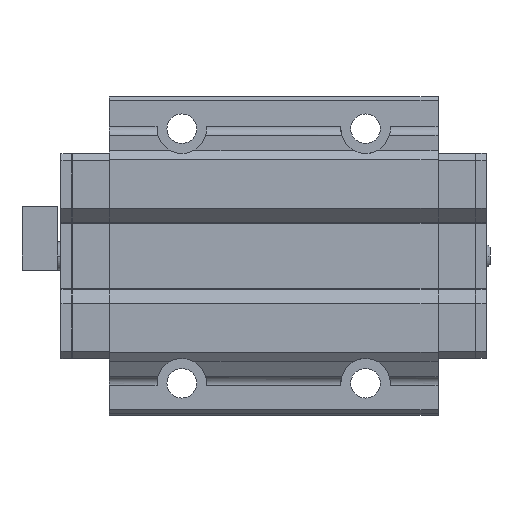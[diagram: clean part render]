
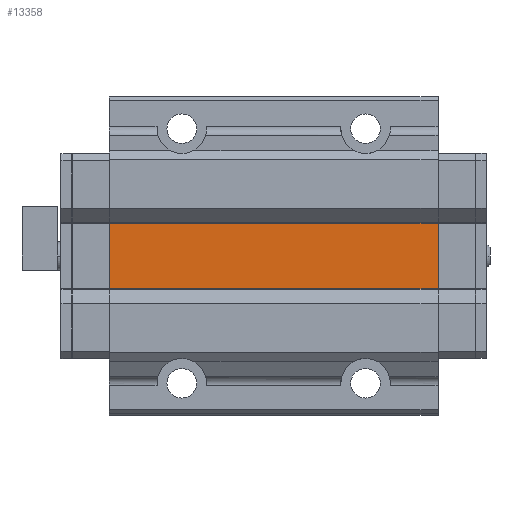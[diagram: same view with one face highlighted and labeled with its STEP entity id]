
A CAD part, front view. The second image highlights one B-rep face of the part: STEP entity #13358.
In plain terms, the highlighted planar face has unit normal (0, -1, 0).
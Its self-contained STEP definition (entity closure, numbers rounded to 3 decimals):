
#262 = ORIENTED_EDGE ( 'NONE', *, *, #9110, .T. ) ;
#825 = DIRECTION ( 'NONE',  ( 0., 0., 1. ) ) ;
#1136 = VERTEX_POINT ( 'NONE', #3184 ) ;
#1281 = VECTOR ( 'NONE', #6744, 1000. ) ;
#2129 = ORIENTED_EDGE ( 'NONE', *, *, #9428, .F. ) ;
#2952 = VERTEX_POINT ( 'NONE', #9342 ) ;
#3184 = CARTESIAN_POINT ( 'NONE',  ( -46.5, 0., 9.256 ) ) ;
#3734 = EDGE_CURVE ( 'NONE', #4790, #2952, #4472, .T. ) ;
#3869 = EDGE_LOOP ( 'NONE', ( #13304, #262, #2129, #4380 ) ) ;
#4380 = ORIENTED_EDGE ( 'NONE', *, *, #13927, .F. ) ;
#4472 = LINE ( 'NONE', #11151, #9736 ) ;
#4790 = VERTEX_POINT ( 'NONE', #12732 ) ;
#5383 = CARTESIAN_POINT ( 'NONE',  ( -46.5, 0., 4.628 ) ) ;
#6272 = CARTESIAN_POINT ( 'NONE',  ( -46.5, 0., 9.256 ) ) ;
#6424 = FACE_OUTER_BOUND ( 'NONE', #3869, .T. ) ;
#6584 = CARTESIAN_POINT ( 'NONE',  ( 60.2, 0., 9.256 ) ) ;
#6610 = CARTESIAN_POINT ( 'NONE',  ( 60.2, 0., -9.256 ) ) ;
#6744 = DIRECTION ( 'NONE',  ( -1., 0., 0. ) ) ;
#7363 = PLANE ( 'NONE',  #8243 ) ;
#7970 = VECTOR ( 'NONE', #12186, 1000. ) ;
#8243 = AXIS2_PLACEMENT_3D ( 'NONE', #6272, #11808, #8659 ) ;
#8659 = DIRECTION ( 'NONE',  ( 0., 0., -1. ) ) ;
#8982 = LINE ( 'NONE', #6584, #7970 ) ;
#9110 = EDGE_CURVE ( 'NONE', #4790, #1136, #8982, .T. ) ;
#9342 = CARTESIAN_POINT ( 'NONE',  ( 46.5, 0., -9.256 ) ) ;
#9428 = EDGE_CURVE ( 'NONE', #10907, #1136, #12831, .T. ) ;
#9736 = VECTOR ( 'NONE', #12101, 1000. ) ;
#10907 = VERTEX_POINT ( 'NONE', #12499 ) ;
#10995 = VECTOR ( 'NONE', #825, 1000. ) ;
#11110 = LINE ( 'NONE', #6610, #1281 ) ;
#11151 = CARTESIAN_POINT ( 'NONE',  ( 46.5, 0., 4.628 ) ) ;
#11808 = DIRECTION ( 'NONE',  ( 0., -1., 0. ) ) ;
#12101 = DIRECTION ( 'NONE',  ( 0., 0., -1. ) ) ;
#12186 = DIRECTION ( 'NONE',  ( -1., 0., 0. ) ) ;
#12499 = CARTESIAN_POINT ( 'NONE',  ( -46.5, 0., -9.256 ) ) ;
#12732 = CARTESIAN_POINT ( 'NONE',  ( 46.5, 0., 9.256 ) ) ;
#12831 = LINE ( 'NONE', #5383, #10995 ) ;
#13304 = ORIENTED_EDGE ( 'NONE', *, *, #3734, .F. ) ;
#13358 = ADVANCED_FACE ( 'NONE', ( #6424 ), #7363, .T. ) ;
#13927 = EDGE_CURVE ( 'NONE', #2952, #10907, #11110, .T. ) ;
